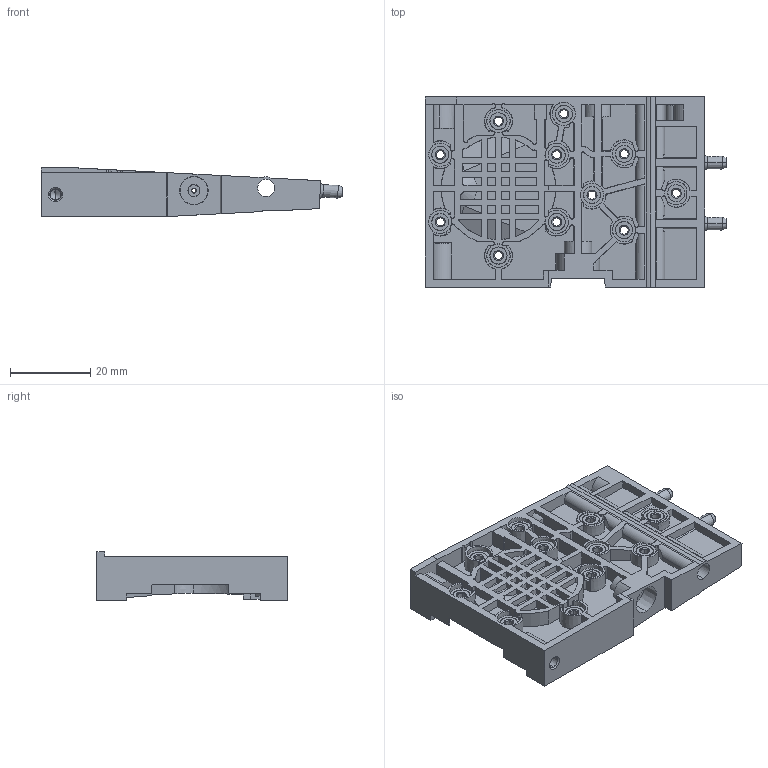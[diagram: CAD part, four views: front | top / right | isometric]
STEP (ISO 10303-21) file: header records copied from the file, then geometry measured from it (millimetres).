
FILE_DESCRIPTION (( 'STEP AP203' ), '1' );
FILE_NAME ('010101_LnG_cartridge_bottom_inserts-RC.STEP', '2023-07-28T20:53:17', ( '' ), ( '' ), 'SwSTEP 2.0', 'SolidWorks 2019', '' );
FILE_SCHEMA (( 'CONFIG_CONTROL_DESIGN' ));
Length unit declared in the file: millimetre
Products named in the file (3): 019901_IUC-M2.5-1; 010101_LnG_cartridge_bottom_inserts-RC; 010101-1_LnG_cartridge_bottom_4.35-0.5
Assembly tree (12 placements, depth 2):
  010101_LnG_cartridge_bottom_inserts-RC
    010101-1_LnG_cartridge_bottom_4.35-0.5
    019901_IUC-M2.5-1  x11
Bounding box: 75.05 x 47.4 x 12.1 mm (x, y, z)
Volume: 15452.1 mm3; surface area: 16694.1 mm2
Topology: 12 solids, 12 shells, 1270 faces, 3247 edges, 2090 vertices
Faces by surface type: plane 515, cone 505, cylinder 174, bspline 48, torus 22, sphere 6
Entity records: 33194 total; most frequent: CARTESIAN_POINT 8782, ORIENTED_EDGE 5264, DIRECTION 4697, EDGE_CURVE 2632, VERTEX_POINT 1726, AXIS2_PLACEMENT_3D 1679, VECTOR 1339, LINE 1339
